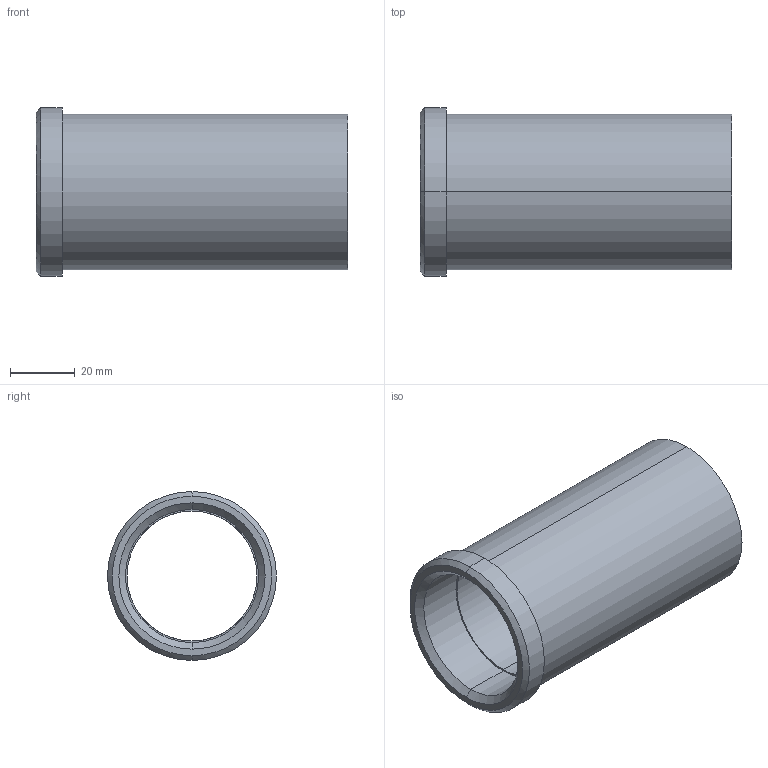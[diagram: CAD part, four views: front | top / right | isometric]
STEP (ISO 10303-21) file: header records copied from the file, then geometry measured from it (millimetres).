
FILE_DESCRIPTION(('CATIA V5 STEP Exchange'),'2;1');
FILE_NAME('C:\Users\Utente\Desktop\IO LAVORO\3D X SITO CF\X SITO\PLASTICA\353\353-40X96.stp','2021-05-13T18:22:51+00:00',('none'),('none'),'CATIA Version 5 Release 20 GA (IN-10)','CATIA V5 STEP AP203','none');
FILE_SCHEMA(('CONFIG_CONTROL_DESIGN'));
Length unit declared in the file: millimetre
Products named in the file (1): 353-40X96
Bounding box: 96 x 52 x 52 mm (x, y, z)
Volume: 54019.2 mm3; surface area: 28026.9 mm2
Topology: 1 solids, 1 shells, 18 faces, 58 edges, 44 vertices
Faces by surface type: cylinder 8, plane 4, cone 4, torus 2
Entity records: 840 total; most frequent: CARTESIAN_POINT 289, ORIENTED_EDGE 116, DIRECTION 82, EDGE_CURVE 58, AXIS2_PLACEMENT_3D 53, VERTEX_POINT 44, CIRCLE 34, EDGE_LOOP 22
